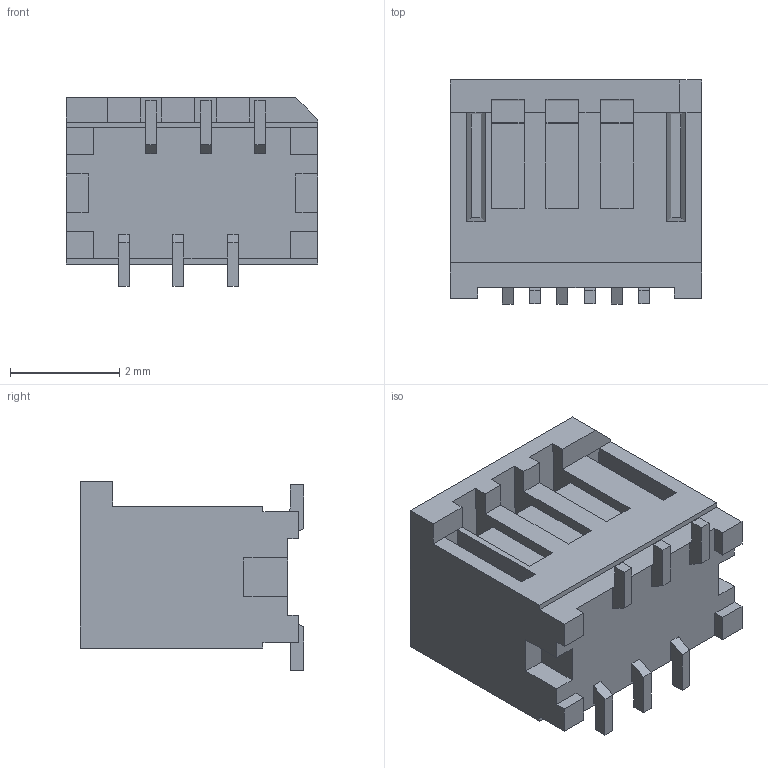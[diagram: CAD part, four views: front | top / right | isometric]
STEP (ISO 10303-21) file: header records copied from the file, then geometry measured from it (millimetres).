
FILE_DESCRIPTION((''),'2;1');
FILE_NAME('781190620','2016-12-29T',('ksrinivasara'),(''),'PRO/ENGINEER BY PARAMETRIC TECHNOLOGY CORPORATION, 2012310','PRO/ENGINEER BY PARAMETRIC TECHNOLOGY CORPORATION, 2012310','');
FILE_SCHEMA(('CONFIG_CONTROL_DESIGN'));
Length unit declared in the file: millimetre
Products named in the file (1): 781190620
Bounding box: 4.6 x 4.1 x 3.46 mm (x, y, z)
Volume: 37.6 mm3; surface area: 149.8 mm2
Topology: 1 solids, 1 shells, 210 faces, 613 edges, 412 vertices
Faces by surface type: plane 195, cylinder 15
Entity records: 6828 total; most frequent: CARTESIAN_POINT 1212, ORIENTED_EDGE 1178, DIRECTION 1065, EDGE_CURVE 589, VECTOR 583, LINE 583, VERTEX_POINT 388, AXIS2_PLACEMENT_3D 241
